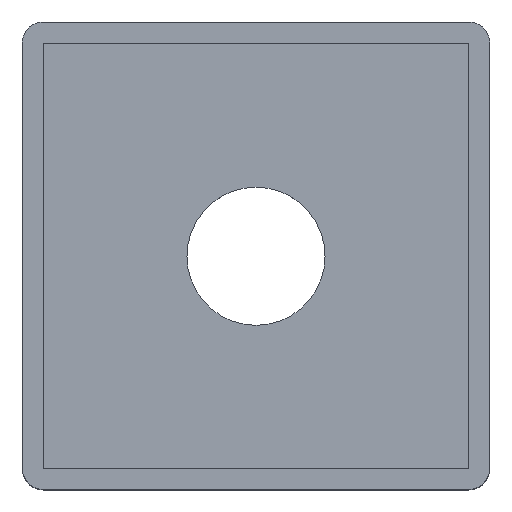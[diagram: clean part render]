
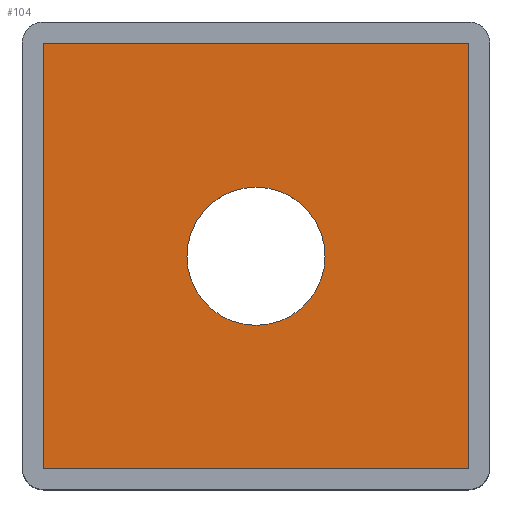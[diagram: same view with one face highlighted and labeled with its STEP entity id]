
A CAD part, top view. The second image highlights one B-rep face of the part: STEP entity #104.
In plain terms, the highlighted planar face has unit normal (0, 0, 1).
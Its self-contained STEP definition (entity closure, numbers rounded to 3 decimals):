
#104=ADVANCED_FACE('',(#199,#200),#201,.T.);
#199=FACE_BOUND('',#305,.T.);
#200=FACE_OUTER_BOUND('',#306,.T.);
#201=PLANE('',#307);
#305=EDGE_LOOP('',(#404));
#306=EDGE_LOOP('',(#405,#406,#407,#408));
#307=AXIS2_PLACEMENT_3D('',#409,#410,#411);
#404=ORIENTED_EDGE('',*,*,#622,.F.);
#405=ORIENTED_EDGE('',*,*,#623,.T.);
#406=ORIENTED_EDGE('',*,*,#617,.T.);
#407=ORIENTED_EDGE('',*,*,#624,.T.);
#408=ORIENTED_EDGE('',*,*,#625,.T.);
#409=CARTESIAN_POINT('',(-19.0,-24.556,2.0));
#410=DIRECTION('',(0.0,0.0,1.0));
#411=DIRECTION('',(1.0,0.0,0.0));
#617=EDGE_CURVE('',#699,#700,#701,.T.);
#622=EDGE_CURVE('',#708,#708,#709,.T.);
#623=EDGE_CURVE('',#710,#699,#711,.T.);
#624=EDGE_CURVE('',#700,#712,#713,.T.);
#625=EDGE_CURVE('',#712,#710,#714,.T.);
#699=VERTEX_POINT('',#815);
#700=VERTEX_POINT('',#816);
#701=LINE('',#817,#818);
#708=VERTEX_POINT('',#828);
#709=CIRCLE('',#829,6.5);
#710=VERTEX_POINT('',#830);
#711=LINE('',#831,#832);
#712=VERTEX_POINT('',#833);
#713=LINE('',#834,#835);
#714=LINE('',#836,#837);
#815=CARTESIAN_POINT('',(-17.0,-22.556,2.0));
#816=CARTESIAN_POINT('',(23.0,-22.556,2.0));
#817=CARTESIAN_POINT('',(-19.0,-22.556,2.0));
#818=VECTOR('',#962,1.0);
#828=CARTESIAN_POINT('',(9.5,-2.556,2.));
#829=AXIS2_PLACEMENT_3D('',#966,#967,#968);
#830=CARTESIAN_POINT('',(-17.0,17.444,2.0));
#831=CARTESIAN_POINT('',(-17.0,19.444,2.0));
#832=VECTOR('',#969,1.0);
#833=CARTESIAN_POINT('',(23.0,17.444,2.0));
#834=CARTESIAN_POINT('',(23.0,-24.556,2.0));
#835=VECTOR('',#970,1.0);
#836=CARTESIAN_POINT('',(25.0,17.444,2.0));
#837=VECTOR('',#971,1.0);
#962=DIRECTION('',(1.0,0.0,0.0));
#966=CARTESIAN_POINT('',(3.0,-2.556,2.));
#967=DIRECTION('',(0.0,0.0,1.0));
#968=DIRECTION('',(1.0,0.0,0.0));
#969=DIRECTION('',(0.0,-1.0,0.0));
#970=DIRECTION('',(0.0,1.0,0.0));
#971=DIRECTION('',(-1.0,0.0,0.0));
